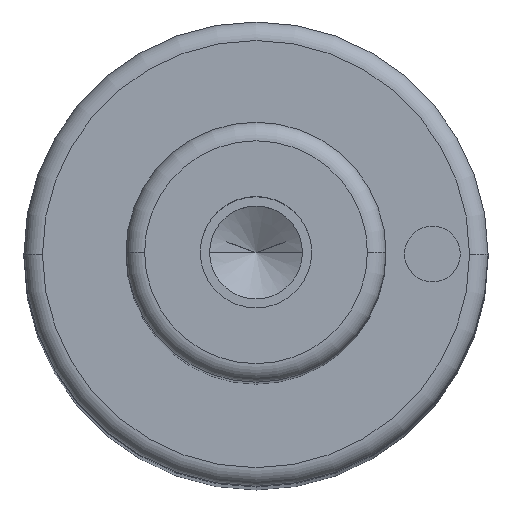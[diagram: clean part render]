
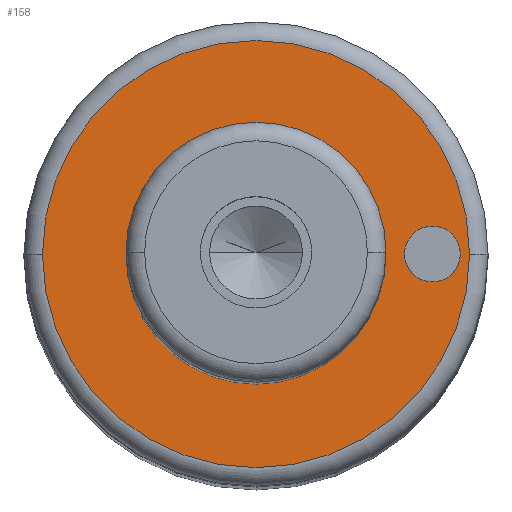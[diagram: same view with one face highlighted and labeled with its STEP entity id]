
A CAD part, top view. The second image highlights one B-rep face of the part: STEP entity #158.
In plain terms, the highlighted planar face has unit normal (0, 0, 1).
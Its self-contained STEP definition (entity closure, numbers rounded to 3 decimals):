
#105=PLANE('',#628);
#113=FACE_BOUND('',#229,.T.);
#114=FACE_BOUND('',#230,.T.);
#115=FACE_BOUND('',#231,.T.);
#158=ADVANCED_FACE('',(#113,#114,#115),#105,.T.);
#229=EDGE_LOOP('',(#375,#376));
#230=EDGE_LOOP('',(#377,#378));
#231=EDGE_LOOP('',(#379,#380));
#259=CIRCLE('',#596,7.);
#260=CIRCLE('',#598,7.);
#264=CIRCLE('',#603,11.5);
#265=CIRCLE('',#605,11.5);
#277=CIRCLE('',#626,1.5);
#278=CIRCLE('',#627,1.5);
#375=ORIENTED_EDGE('',*,*,#488,.F.);
#376=ORIENTED_EDGE('',*,*,#489,.F.);
#377=ORIENTED_EDGE('',*,*,#507,.F.);
#378=ORIENTED_EDGE('',*,*,#508,.F.);
#379=ORIENTED_EDGE('',*,*,#484,.T.);
#380=ORIENTED_EDGE('',*,*,#482,.T.);
#434=VERTEX_POINT('',#875);
#435=VERTEX_POINT('',#877);
#436=VERTEX_POINT('',#883);
#439=VERTEX_POINT('',#888);
#448=VERTEX_POINT('',#927);
#449=VERTEX_POINT('',#928);
#482=EDGE_CURVE('',#435,#434,#259,.T.);
#484=EDGE_CURVE('',#434,#435,#260,.T.);
#488=EDGE_CURVE('',#439,#436,#264,.T.);
#489=EDGE_CURVE('',#436,#439,#265,.T.);
#507=EDGE_CURVE('',#448,#449,#277,.T.);
#508=EDGE_CURVE('',#449,#448,#278,.T.);
#596=AXIS2_PLACEMENT_3D('',#876,#707,#708);
#598=AXIS2_PLACEMENT_3D('',#880,#712,#713);
#603=AXIS2_PLACEMENT_3D('',#889,#722,#723);
#605=AXIS2_PLACEMENT_3D('',#891,#726,#727);
#626=AXIS2_PLACEMENT_3D('',#926,#774,#775);
#627=AXIS2_PLACEMENT_3D('',#929,#776,#777);
#628=AXIS2_PLACEMENT_3D('',#930,#778,#779);
#707=DIRECTION('',(0.,0.,-1.));
#708=DIRECTION('',(0.,1.,0.));
#712=DIRECTION('',(0.,0.,-1.));
#713=DIRECTION('',(0.,-1.,0.));
#722=DIRECTION('',(0.,0.,-1.));
#723=DIRECTION('',(0.,1.,0.));
#726=DIRECTION('',(0.,0.,-1.));
#727=DIRECTION('',(0.,-1.,0.));
#774=DIRECTION('',(0.,0.,1.));
#775=DIRECTION('',(0.,1.,0.));
#776=DIRECTION('',(0.,0.,1.));
#777=DIRECTION('',(0.,-1.,0.));
#778=DIRECTION('',(0.,0.,1.));
#779=DIRECTION('',(0.,-1.,0.));
#875=CARTESIAN_POINT('',(-7.,0.,117.));
#876=CARTESIAN_POINT('',(0.,0.,117.));
#877=CARTESIAN_POINT('',(7.,0.,117.));
#880=CARTESIAN_POINT('',(0.,0.,117.));
#883=CARTESIAN_POINT('',(-11.5,0.,117.));
#888=CARTESIAN_POINT('',(11.5,0.,117.));
#889=CARTESIAN_POINT('',(0.,0.,117.));
#891=CARTESIAN_POINT('',(0.,0.,117.));
#926=CARTESIAN_POINT('',(9.5,0.,117.));
#927=CARTESIAN_POINT('',(8.,0.,117.));
#928=CARTESIAN_POINT('',(11.,0.,117.));
#929=CARTESIAN_POINT('',(9.5,0.,117.));
#930=CARTESIAN_POINT('',(0.,0.,117.));
